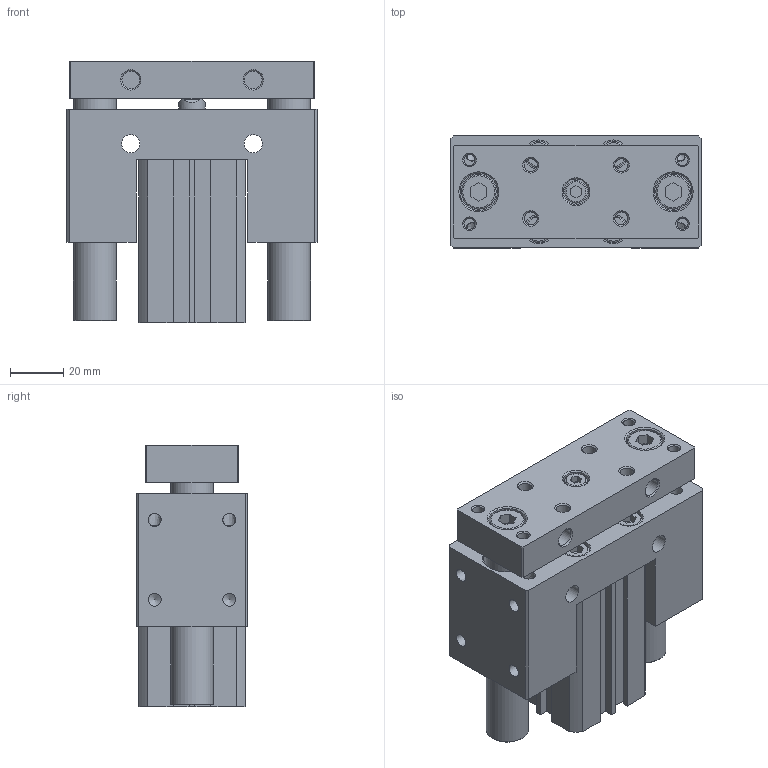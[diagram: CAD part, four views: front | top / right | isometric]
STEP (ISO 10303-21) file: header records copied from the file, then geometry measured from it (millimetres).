
FILE_DESCRIPTION((''),'2;1');
FILE_NAME('I:\3D電子目錄\氣缸\JCB\JCB\JCB25-S\JCB25x30-S.stp','2007-08-21T19:24:59',('Administrator'),(''),'Autodesk Inventor 11','Autodesk Inventor 11','');
FILE_SCHEMA(('AUTOMOTIVE_DESIGN { 1 0 10303 214 1 1 1 1 }'));
Length unit declared in the file: millimetre
Products named in the file (1): JCB25
Bounding box: 94 x 42 x 98.2 mm (x, y, z)
Volume: 261590.4 mm3; surface area: 76635.7 mm2
Topology: 5 solids, 5 shells, 323 faces, 740 edges, 483 vertices
Faces by surface type: plane 172, bspline 61, cylinder 47, cone 35, torus 8
Full cylindrical faces by diameter (mm): 1.5 x2, 4.917 x4, 5.1 x4, 6.647 x2, 8 x8, 8.5 x1, 10 x5, 11 x1, 13 x2, 16 x2, 17 x2, 18 x2, 28 x4, 29.4 x2
Entity records: 8980 total; most frequent: CARTESIAN_POINT 2309, DIRECTION 1332, ORIENTED_EDGE 1160, EDGE_CURVE 580, EDGE_LOOP 544, AXIS2_PLACEMENT_3D 493, VERTEX_POINT 454, VECTOR 346
